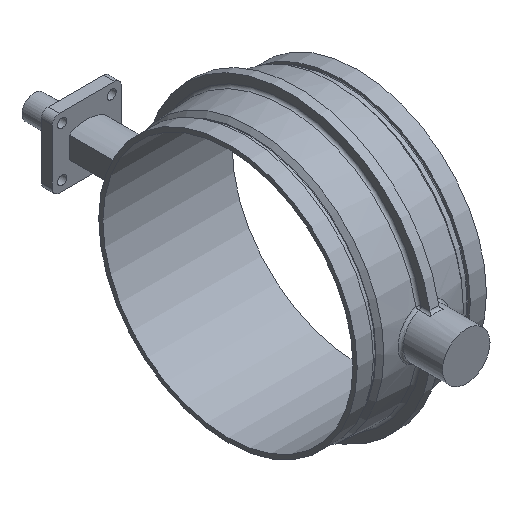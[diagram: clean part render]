
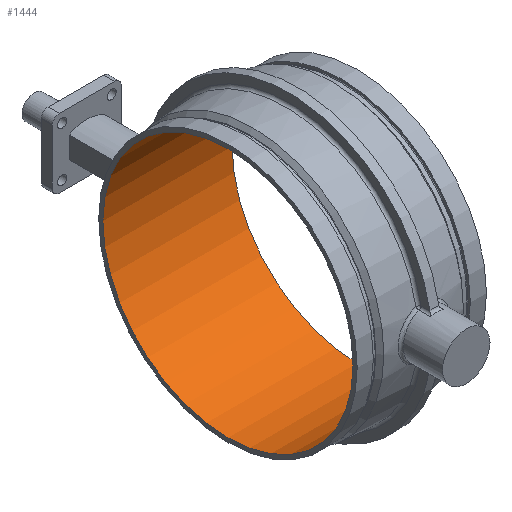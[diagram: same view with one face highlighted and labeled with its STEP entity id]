
A CAD part, isometric view. The second image highlights one B-rep face of the part: STEP entity #1444.
In plain terms, the highlighted cylindrical face has radius 295.021 mm (diameter 590.042 mm), a full revolution.
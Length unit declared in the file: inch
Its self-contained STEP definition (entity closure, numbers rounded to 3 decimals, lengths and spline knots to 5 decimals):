
#172=LINE('',#3030,#226);
#226=VECTOR('',#2022,11.615);
#253=CYLINDRICAL_SURFACE('',#1631,11.615);
#329=FACE_OUTER_BOUND('',#419,.T.);
#419=EDGE_LOOP('',(#1271,#1272,#1273,#1274,#1275,#1276));
#520=CIRCLE('',#1629,11.615);
#521=CIRCLE('',#1630,11.615);
#522=CIRCLE('',#1632,11.615);
#523=CIRCLE('',#1633,11.615);
#656=VERTEX_POINT('',#3024);
#657=VERTEX_POINT('',#3025);
#658=VERTEX_POINT('',#3029);
#659=VERTEX_POINT('',#3031);
#862=EDGE_CURVE('',#656,#657,#520,.T.);
#863=EDGE_CURVE('',#657,#656,#521,.T.);
#864=EDGE_CURVE('',#657,#658,#172,.T.);
#865=EDGE_CURVE('',#659,#658,#522,.T.);
#866=EDGE_CURVE('',#658,#659,#523,.T.);
#1271=ORIENTED_EDGE('',*,*,#862,.T.);
#1272=ORIENTED_EDGE('',*,*,#864,.T.);
#1273=ORIENTED_EDGE('',*,*,#865,.F.);
#1274=ORIENTED_EDGE('',*,*,#866,.F.);
#1275=ORIENTED_EDGE('',*,*,#864,.F.);
#1276=ORIENTED_EDGE('',*,*,#863,.T.);
#1444=ADVANCED_FACE('',(#329),#253,.F.);
#1629=AXIS2_PLACEMENT_3D('',#3026,#2016,#2017);
#1630=AXIS2_PLACEMENT_3D('',#3027,#2018,#2019);
#1631=AXIS2_PLACEMENT_3D('',#3028,#2020,#2021);
#1632=AXIS2_PLACEMENT_3D('',#3032,#2023,#2024);
#1633=AXIS2_PLACEMENT_3D('',#3033,#2025,#2026);
#2016=DIRECTION('center_axis',(1.,0.,0.));
#2017=DIRECTION('ref_axis',(0.,1.,0.));
#2018=DIRECTION('center_axis',(1.,0.,0.));
#2019=DIRECTION('ref_axis',(0.,1.,0.));
#2020=DIRECTION('center_axis',(1.,0.,0.));
#2021=DIRECTION('ref_axis',(0.,1.,0.));
#2022=DIRECTION('',(-1.,0.,0.));
#2023=DIRECTION('center_axis',(1.,0.,0.));
#2024=DIRECTION('ref_axis',(0.,1.,0.));
#2025=DIRECTION('center_axis',(1.,0.,0.));
#2026=DIRECTION('ref_axis',(0.,1.,0.));
#3024=CARTESIAN_POINT('',(6.,11.615,0.));
#3025=CARTESIAN_POINT('',(6.,-11.615,0.));
#3026=CARTESIAN_POINT('Origin',(6.,0.,0.));
#3027=CARTESIAN_POINT('Origin',(6.,0.,0.));
#3028=CARTESIAN_POINT('Origin',(0.,0.,0.));
#3029=CARTESIAN_POINT('',(-6.,-11.615,0.));
#3030=CARTESIAN_POINT('',(0.,-11.615,0.));
#3031=CARTESIAN_POINT('',(-6.,11.615,0.));
#3032=CARTESIAN_POINT('Origin',(-6.,0.,0.));
#3033=CARTESIAN_POINT('Origin',(-6.,0.,0.));
